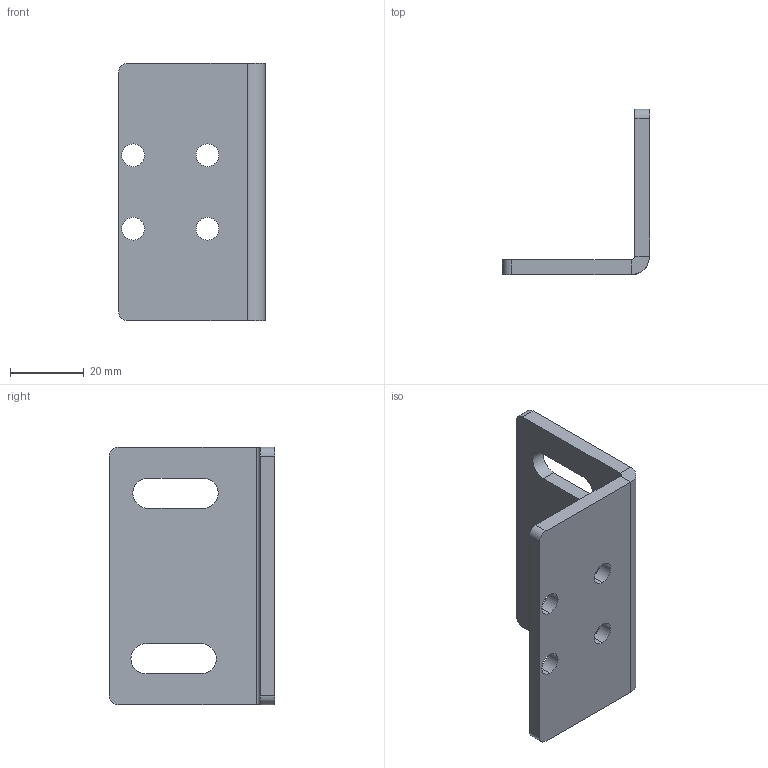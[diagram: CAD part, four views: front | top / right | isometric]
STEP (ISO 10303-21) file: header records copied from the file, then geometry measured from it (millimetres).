
FILE_DESCRIPTION (( 'STEP AP214' ), '1' );
FILE_NAME ('2.9033 Lukitusyksikkö 25 kiinnityslevy.STEP', '2025-09-23T06:35:20', ( '' ), ( '' ), 'SwSTEP 2.0', 'SolidWorks 2025', '' );
FILE_SCHEMA (( 'AUTOMOTIVE_DESIGN' ));
Length unit declared in the file: millimetre
Products named in the file (1): 2.9033 Lukitusyksikkö 25 kiinnityslevy
Bounding box: 40 x 45 x 70 mm (x, y, z)
Volume: 20408.5 mm3; surface area: 12142.5 mm2
Topology: 1 solids, 1 shells, 36 faces, 94 edges, 60 vertices
Faces by surface type: cylinder 20, plane 16
Entity records: 1161 total; most frequent: DIRECTION 208, CARTESIAN_POINT 191, ORIENTED_EDGE 188, EDGE_CURVE 94, AXIS2_PLACEMENT_3D 77, VERTEX_POINT 60, VECTOR 54, LINE 54
